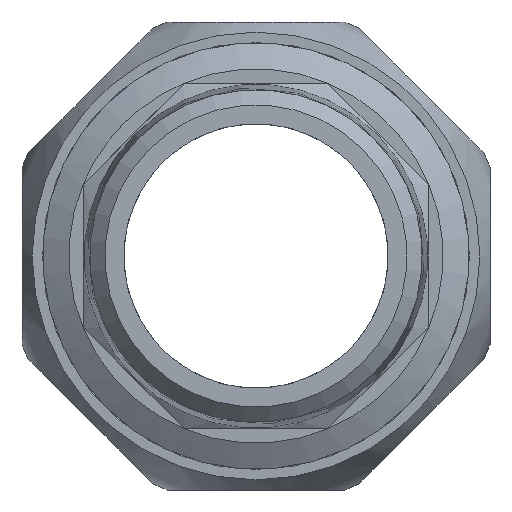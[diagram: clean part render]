
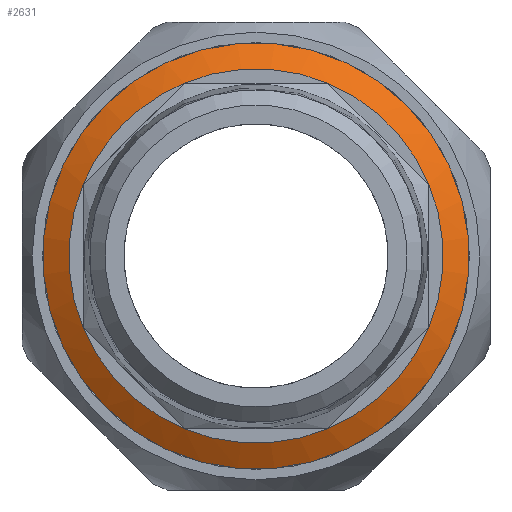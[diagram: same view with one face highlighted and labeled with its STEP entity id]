
A CAD part, left-side view. The second image highlights one B-rep face of the part: STEP entity #2631.
In plain terms, the highlighted conical face has half-angle 60 degrees and reference radius 19.677 mm.
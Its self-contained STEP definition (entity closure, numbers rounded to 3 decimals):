
#1826=CARTESIAN_POINT('',(-8.025,-7.043,16.999));
#1827=VERTEX_POINT('',#1826);
#1836=CARTESIAN_POINT('',(-8.025,-16.999,7.043));
#1837=VERTEX_POINT('',#1836);
#1873=CARTESIAN_POINT('',(-8.025,7.04,17.));
#1874=VERTEX_POINT('',#1873);
#1883=CARTESIAN_POINT('',(-8.025,-7.04,17.));
#1884=VERTEX_POINT('',#1883);
#1920=CARTESIAN_POINT('',(-8.025,16.999,7.043));
#1921=VERTEX_POINT('',#1920);
#1930=CARTESIAN_POINT('',(-8.025,7.043,16.999));
#1931=VERTEX_POINT('',#1930);
#1967=CARTESIAN_POINT('',(-8.025,-17.,7.04));
#1968=VERTEX_POINT('',#1967);
#1977=CARTESIAN_POINT('',(-8.025,-17.,-7.04));
#1978=VERTEX_POINT('',#1977);
#2014=CARTESIAN_POINT('',(-8.025,-7.04,-17.));
#2015=VERTEX_POINT('',#2014);
#2016=CARTESIAN_POINT('',(-8.025,7.04,-17.));
#2017=VERTEX_POINT('',#2016);
#2018=CARTESIAN_POINT('',(-8.025,0.,0.0));
#2019=DIRECTION('',(1.0,0.0,0.0));
#2020=DIRECTION('',(0.0,1.0,0.0));
#2021=AXIS2_PLACEMENT_3D('',#2018,#2019,#2020);
#2022=CIRCLE('',#2021,18.4);
#2023=EDGE_CURVE('',#2015,#2017,#2022,.T.);
#2039=CARTESIAN_POINT('',(-8.025,-16.999,-7.043));
#2040=VERTEX_POINT('',#2039);
#2041=CARTESIAN_POINT('',(-8.025,-7.043,-16.999));
#2042=VERTEX_POINT('',#2041);
#2043=CARTESIAN_POINT('',(-8.025,0.,0.0));
#2044=DIRECTION('',(1.0,0.0,0.0));
#2045=DIRECTION('',(0.0,1.0,0.0));
#2046=AXIS2_PLACEMENT_3D('',#2043,#2044,#2045);
#2047=CIRCLE('',#2046,18.4);
#2048=EDGE_CURVE('',#2040,#2042,#2047,.T.);
#2064=CARTESIAN_POINT('',(-8.025,0.,0.0));
#2065=DIRECTION('',(1.0,0.0,0.0));
#2066=DIRECTION('',(0.0,1.0,0.0));
#2067=AXIS2_PLACEMENT_3D('',#2064,#2065,#2066);
#2068=CIRCLE('',#2067,18.4);
#2069=EDGE_CURVE('',#1968,#1978,#2068,.T.);
#2080=CARTESIAN_POINT('',(-8.025,0.,0.0));
#2081=DIRECTION('',(1.0,0.0,0.0));
#2082=DIRECTION('',(0.0,1.0,0.0));
#2083=AXIS2_PLACEMENT_3D('',#2080,#2081,#2082);
#2084=CIRCLE('',#2083,18.4);
#2085=EDGE_CURVE('',#1827,#1837,#2084,.T.);
#2096=CARTESIAN_POINT('',(-8.025,0.,0.0));
#2097=DIRECTION('',(1.0,0.0,0.0));
#2098=DIRECTION('',(0.0,1.0,0.0));
#2099=AXIS2_PLACEMENT_3D('',#2096,#2097,#2098);
#2100=CIRCLE('',#2099,18.4);
#2101=EDGE_CURVE('',#1874,#1884,#2100,.T.);
#2112=CARTESIAN_POINT('',(-8.025,0.,0.0));
#2113=DIRECTION('',(1.0,0.0,0.0));
#2114=DIRECTION('',(0.0,1.0,0.0));
#2115=AXIS2_PLACEMENT_3D('',#2112,#2113,#2114);
#2116=CIRCLE('',#2115,18.4);
#2117=EDGE_CURVE('',#1921,#1931,#2116,.T.);
#2128=CARTESIAN_POINT('',(-8.025,7.043,-16.999));
#2129=VERTEX_POINT('',#2128);
#2130=CARTESIAN_POINT('',(-8.025,16.999,-7.043));
#2131=VERTEX_POINT('',#2130);
#2132=CARTESIAN_POINT('',(-8.025,0.,0.0));
#2133=DIRECTION('',(1.0,0.0,0.0));
#2134=DIRECTION('',(0.0,1.0,0.0));
#2135=AXIS2_PLACEMENT_3D('',#2132,#2133,#2134);
#2136=CIRCLE('',#2135,18.4);
#2137=EDGE_CURVE('',#2129,#2131,#2136,.T.);
#2277=CARTESIAN_POINT('',(-8.025,17.,7.04));
#2278=VERTEX_POINT('',#2277);
#2285=CARTESIAN_POINT('',(-8.025,0.,0.0));
#2286=DIRECTION('',(1.0,0.0,0.0));
#2287=DIRECTION('',(0.0,1.0,0.0));
#2288=AXIS2_PLACEMENT_3D('',#2285,#2286,#2287);
#2289=CIRCLE('',#2288,18.4);
#2290=EDGE_CURVE('',#2278,#1921,#2289,.T.);
#2309=CARTESIAN_POINT('',(-8.025,0.,0.0));
#2310=DIRECTION('',(1.0,0.0,0.0));
#2311=DIRECTION('',(0.0,1.0,0.0));
#2312=AXIS2_PLACEMENT_3D('',#2309,#2310,#2311);
#2313=CIRCLE('',#2312,18.4);
#2314=EDGE_CURVE('',#1931,#1874,#2313,.T.);
#2333=CARTESIAN_POINT('',(-8.025,0.,0.0));
#2334=DIRECTION('',(1.0,0.0,0.0));
#2335=DIRECTION('',(0.0,1.0,0.0));
#2336=AXIS2_PLACEMENT_3D('',#2333,#2334,#2335);
#2337=CIRCLE('',#2336,18.4);
#2338=EDGE_CURVE('',#1884,#1827,#2337,.T.);
#2349=CARTESIAN_POINT('',(-8.025,0.,0.0));
#2350=DIRECTION('',(1.0,0.0,0.0));
#2351=DIRECTION('',(0.0,1.0,0.0));
#2352=AXIS2_PLACEMENT_3D('',#2349,#2350,#2351);
#2353=CIRCLE('',#2352,18.4);
#2354=EDGE_CURVE('',#1837,#1968,#2353,.T.);
#2381=CARTESIAN_POINT('',(-8.025,0.,0.0));
#2382=DIRECTION('',(1.0,0.0,0.0));
#2383=DIRECTION('',(0.0,1.0,0.0));
#2384=AXIS2_PLACEMENT_3D('',#2381,#2382,#2383);
#2385=CIRCLE('',#2384,18.4);
#2386=EDGE_CURVE('',#1978,#2040,#2385,.T.);
#2405=CARTESIAN_POINT('',(-8.025,0.,0.0));
#2406=DIRECTION('',(1.0,0.0,0.0));
#2407=DIRECTION('',(0.0,1.0,0.0));
#2408=AXIS2_PLACEMENT_3D('',#2405,#2406,#2407);
#2409=CIRCLE('',#2408,18.4);
#2410=EDGE_CURVE('',#2042,#2015,#2409,.T.);
#2429=CARTESIAN_POINT('',(-8.025,0.,0.0));
#2430=DIRECTION('',(1.0,0.0,0.0));
#2431=DIRECTION('',(0.0,1.0,0.0));
#2432=AXIS2_PLACEMENT_3D('',#2429,#2430,#2431);
#2433=CIRCLE('',#2432,18.4);
#2434=EDGE_CURVE('',#2017,#2129,#2433,.T.);
#2445=CARTESIAN_POINT('',(-8.025,17.,-7.04));
#2446=VERTEX_POINT('',#2445);
#2447=CARTESIAN_POINT('',(-8.025,0.,0.0));
#2448=DIRECTION('',(1.0,0.0,0.0));
#2449=DIRECTION('',(0.0,1.0,0.0));
#2450=AXIS2_PLACEMENT_3D('',#2447,#2448,#2449);
#2451=CIRCLE('',#2450,18.4);
#2452=EDGE_CURVE('',#2131,#2446,#2451,.T.);
#2477=CARTESIAN_POINT('',(-8.025,0.,0.0));
#2478=DIRECTION('',(1.0,0.0,0.0));
#2479=DIRECTION('',(0.0,1.0,0.0));
#2480=AXIS2_PLACEMENT_3D('',#2477,#2478,#2479);
#2481=CIRCLE('',#2480,18.4);
#2482=EDGE_CURVE('',#2446,#2278,#2481,.T.);
#2590=CARTESIAN_POINT('',(-9.5,20.955,0.0));
#2591=VERTEX_POINT('',#2590);
#2592=CARTESIAN_POINT('',(-9.5,0.,0.0));
#2593=DIRECTION('',(1.0,0.0,0.0));
#2594=DIRECTION('',(0.0,1.0,0.0));
#2595=AXIS2_PLACEMENT_3D('',#2592,#2593,#2594);
#2596=CIRCLE('',#2595,20.955);
#2597=EDGE_CURVE('',#2591,#2591,#2596,.T.);
#2605=CARTESIAN_POINT('',(-8.762,0.,0.0));
#2606=DIRECTION('',(-1.0,0.,0.0));
#2607=DIRECTION('',(0.0,1.0,0.0));
#2608=AXIS2_PLACEMENT_3D('',#2605,#2606,#2607);
#2609=CONICAL_SURFACE('',#2608,19.677,60.);
#2610=ORIENTED_EDGE('',*,*,#2482,.F.);
#2611=ORIENTED_EDGE('',*,*,#2452,.F.);
#2612=ORIENTED_EDGE('',*,*,#2137,.F.);
#2613=ORIENTED_EDGE('',*,*,#2434,.F.);
#2614=ORIENTED_EDGE('',*,*,#2023,.F.);
#2615=ORIENTED_EDGE('',*,*,#2410,.F.);
#2616=ORIENTED_EDGE('',*,*,#2048,.F.);
#2617=ORIENTED_EDGE('',*,*,#2386,.F.);
#2618=ORIENTED_EDGE('',*,*,#2069,.F.);
#2619=ORIENTED_EDGE('',*,*,#2354,.F.);
#2620=ORIENTED_EDGE('',*,*,#2085,.F.);
#2621=ORIENTED_EDGE('',*,*,#2338,.F.);
#2622=ORIENTED_EDGE('',*,*,#2101,.F.);
#2623=ORIENTED_EDGE('',*,*,#2314,.F.);
#2624=ORIENTED_EDGE('',*,*,#2117,.F.);
#2625=ORIENTED_EDGE('',*,*,#2290,.F.);
#2626=EDGE_LOOP('',(#2610,#2611,#2612,#2613,#2614,#2615,#2616,#2617,#2618,#2619,#2620,#2621,#2622,#2623,#2624,#2625));
#2627=FACE_OUTER_BOUND('',#2626,.T.);
#2628=ORIENTED_EDGE('',*,*,#2597,.T.);
#2629=EDGE_LOOP('',(#2628));
#2630=FACE_BOUND('',#2629,.T.);
#2631=ADVANCED_FACE('',(#2627,#2630),#2609,.T.);
